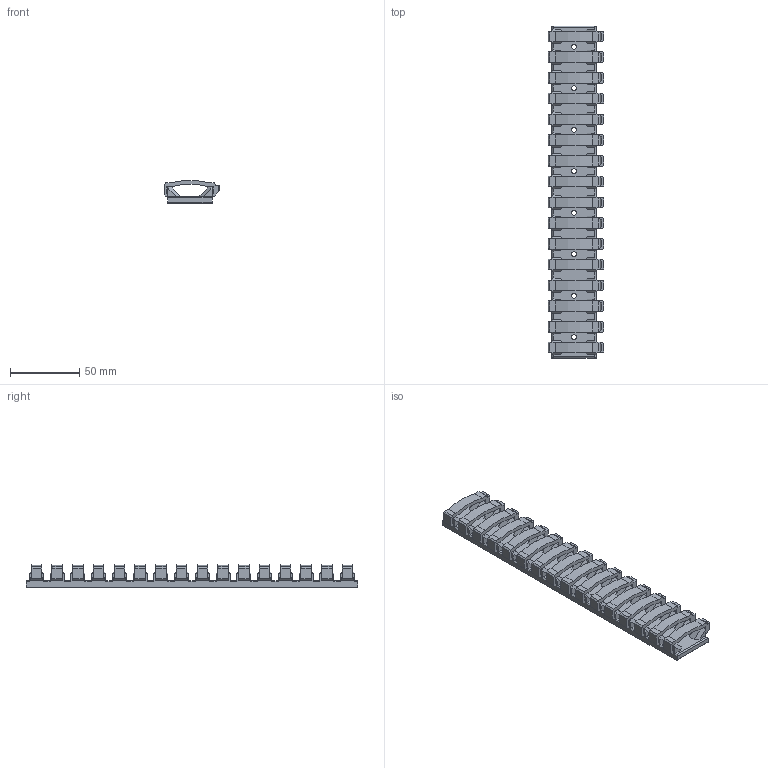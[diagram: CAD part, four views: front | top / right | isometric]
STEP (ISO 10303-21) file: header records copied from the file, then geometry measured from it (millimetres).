
FILE_DESCRIPTION(/* description */ (''),/* implementation_level */ '2;1');
FILE_NAME(/* name */ 'Straight_Extended (240mm).step',/* time_stamp */ '2024-10-30T00:21:16+01:00',/* author */ (''),/* organization */ (''),/* preprocessor_version */ 'ST-DEVELOPER v20',/* originating_system */ 'Autodesk Translation Framework v13.20.0.188',/* authorisation */ '');
FILE_SCHEMA (('AUTOMOTIVE_DESIGN { 1 0 10303 214 3 1 1 }'));
Length unit declared in the file: millimetre
Products named in the file (3): Cable_Guide_Staright_ Assembly; Stright_Cable_Guide; Wire Clips
Assembly tree (2 placements, depth 2):
  Cable_Guide_Staright_ Assembly
    Stright_Cable_Guide
    Wire Clips
Bounding box: 40.2 x 240 x 16.56 mm (x, y, z)
Volume: 57105.8 mm3; surface area: 44650 mm2
Topology: 17 solids, 17 shells, 1708 faces, 4578 edges, 2952 vertices
Faces by surface type: plane 1352, cylinder 188, sphere 96, bspline 32, cone 24, torus 16
Full cylindrical faces by diameter (mm): 3.6 x8
Entity records: 53002 total; most frequent: CARTESIAN_POINT 10139, ORIENTED_EDGE 9156, DIRECTION 8340, EDGE_CURVE 4578, LINE 3986, VECTOR 3986, VERTEX_POINT 2952, AXIS2_PLACEMENT_3D 2177
